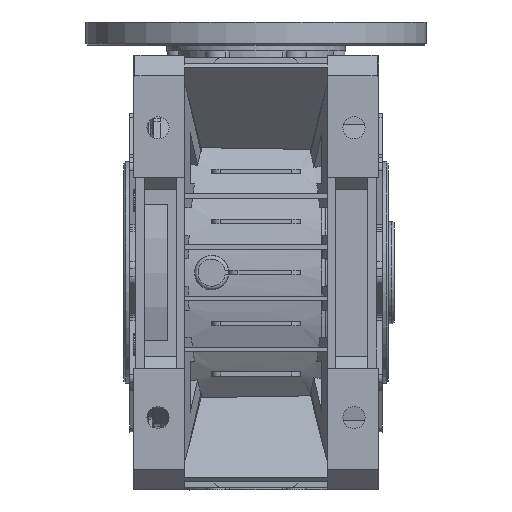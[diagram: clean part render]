
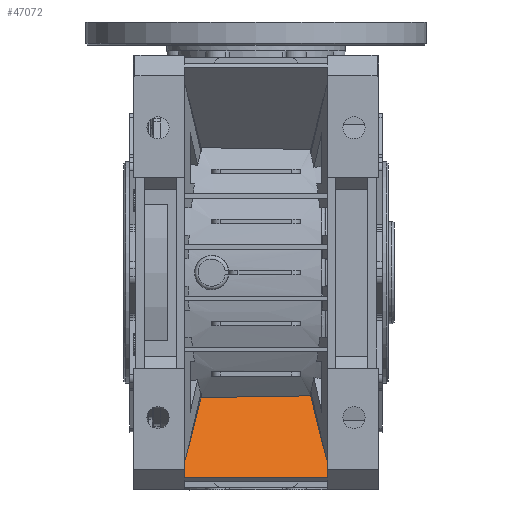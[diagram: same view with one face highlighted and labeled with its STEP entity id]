
A CAD part, front view. The second image highlights one B-rep face of the part: STEP entity #47072.
In plain terms, the highlighted planar face has unit normal (0, -0.707, 0.707).
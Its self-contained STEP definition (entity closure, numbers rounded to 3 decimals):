
#30176=CARTESIAN_POINT('',(-32.243,-185.406,-73.285));
#30177=VERTEX_POINT('',#30176);
#30185=CARTESIAN_POINT('',(31.989,-184.375,-72.254));
#30186=VERTEX_POINT('',#30185);
#30187=CARTESIAN_POINT('',(-32.243,-185.406,-73.285));
#30188=DIRECTION('',(1.,0.016,0.016));
#30189=VECTOR('',#30188,64.249);
#30190=LINE('',#30187,#30189);
#30191=EDGE_CURVE('',#30177,#30186,#30190,.T.);
#45516=CARTESIAN_POINT('',(42.,-223.5,-111.379));
#45517=VERTEX_POINT('',#45516);
#45524=CARTESIAN_POINT('',(42.0,-232.561,-120.439));
#45525=VERTEX_POINT('',#45524);
#45526=CARTESIAN_POINT('',(42.,-223.5,-111.379));
#45527=DIRECTION('',(0.0,-0.707,-0.707));
#45528=VECTOR('',#45527,12.814);
#45529=LINE('',#45526,#45528);
#45530=EDGE_CURVE('',#45517,#45525,#45529,.T.);
#45563=CARTESIAN_POINT('',(-42.0,-232.561,-120.439));
#45564=VERTEX_POINT('',#45563);
#45571=CARTESIAN_POINT('',(-42.,-223.5,-111.379));
#45572=VERTEX_POINT('',#45571);
#45573=CARTESIAN_POINT('',(-42.,-232.561,-120.439));
#45574=DIRECTION('',(0.0,0.707,0.707));
#45575=VECTOR('',#45574,12.814);
#45576=LINE('',#45573,#45575);
#45577=EDGE_CURVE('',#45564,#45572,#45576,.T.);
#47012=CARTESIAN_POINT('',(-42.0,-232.561,-120.439));
#47013=DIRECTION('',(0.,0.707,-0.707));
#47014=DIRECTION('',(-1.0,0.0,0.0));
#47015=AXIS2_PLACEMENT_3D('',#47012,#47013,#47014);
#47016=PLANE('',#47015);
#47017=CARTESIAN_POINT('',(-39.574,-214.446,-102.325));
#47018=VERTEX_POINT('',#47017);
#47019=CARTESIAN_POINT('',(-42.,-223.5,-111.379));
#47020=DIRECTION('',(0.186,0.695,0.695));
#47021=VECTOR('',#47020,13.032);
#47022=LINE('',#47019,#47021);
#47023=EDGE_CURVE('',#45572,#47018,#47022,.T.);
#47024=ORIENTED_EDGE('',*,*,#47023,.F.);
#47025=ORIENTED_EDGE('',*,*,#45577,.F.);
#47026=CARTESIAN_POINT('',(-42.0,-232.561,-120.439));
#47027=DIRECTION('',(1.0,0.0,0.0));
#47028=VECTOR('',#47027,84.0);
#47029=LINE('',#47026,#47028);
#47030=EDGE_CURVE('',#45564,#45525,#47029,.T.);
#47031=ORIENTED_EDGE('',*,*,#47030,.T.);
#47032=ORIENTED_EDGE('',*,*,#45530,.F.);
#47033=CARTESIAN_POINT('',(39.574,-214.446,-102.325));
#47034=VERTEX_POINT('',#47033);
#47035=CARTESIAN_POINT('',(39.574,-214.446,-102.325));
#47036=DIRECTION('',(0.186,-0.695,-0.695));
#47037=VECTOR('',#47036,13.032);
#47038=LINE('',#47035,#47037);
#47039=EDGE_CURVE('',#47034,#45517,#47038,.T.);
#47040=ORIENTED_EDGE('',*,*,#47039,.F.);
#47041=CARTESIAN_POINT('',(39.514,-214.843,-102.722));
#47042=VERTEX_POINT('',#47041);
#47043=CARTESIAN_POINT('',(39.514,-214.843,-102.722));
#47044=DIRECTION('',(0.106,0.703,0.703));
#47045=VECTOR('',#47044,0.565);
#47046=LINE('',#47043,#47045);
#47047=EDGE_CURVE('',#47042,#47034,#47046,.T.);
#47048=ORIENTED_EDGE('',*,*,#47047,.F.);
#47049=CARTESIAN_POINT('',(31.989,-184.375,-72.254));
#47050=DIRECTION('',(0.172,-0.697,-0.697));
#47051=VECTOR('',#47050,43.741);
#47052=LINE('',#47049,#47051);
#47053=EDGE_CURVE('',#30186,#47042,#47052,.T.);
#47054=ORIENTED_EDGE('',*,*,#47053,.F.);
#47055=ORIENTED_EDGE('',*,*,#30191,.F.);
#47056=CARTESIAN_POINT('',(-39.514,-214.843,-102.722));
#47057=VERTEX_POINT('',#47056);
#47058=CARTESIAN_POINT('',(-39.514,-214.843,-102.722));
#47059=DIRECTION('',(0.172,0.697,0.697));
#47060=VECTOR('',#47059,42.261);
#47061=LINE('',#47058,#47060);
#47062=EDGE_CURVE('',#47057,#30177,#47061,.T.);
#47063=ORIENTED_EDGE('',*,*,#47062,.F.);
#47064=CARTESIAN_POINT('',(-39.574,-214.446,-102.325));
#47065=DIRECTION('',(0.106,-0.703,-0.703));
#47066=VECTOR('',#47065,0.565);
#47067=LINE('',#47064,#47066);
#47068=EDGE_CURVE('',#47018,#47057,#47067,.T.);
#47069=ORIENTED_EDGE('',*,*,#47068,.F.);
#47070=EDGE_LOOP('',(#47024,#47025,#47031,#47032,#47040,#47048,#47054,#47055,#47063,#47069));
#47071=FACE_OUTER_BOUND('',#47070,.T.);
#47072=ADVANCED_FACE('',(#47071),#47016,.F.);
